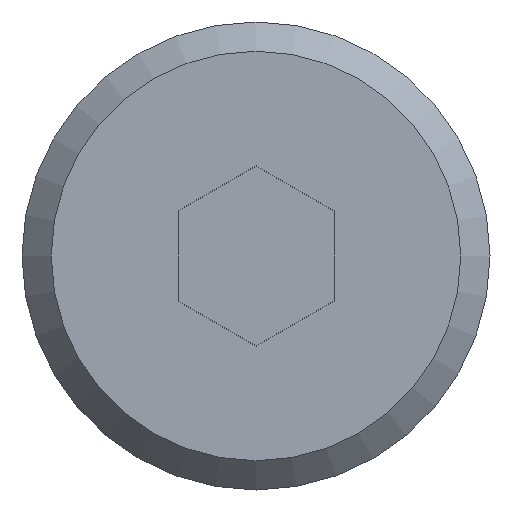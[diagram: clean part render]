
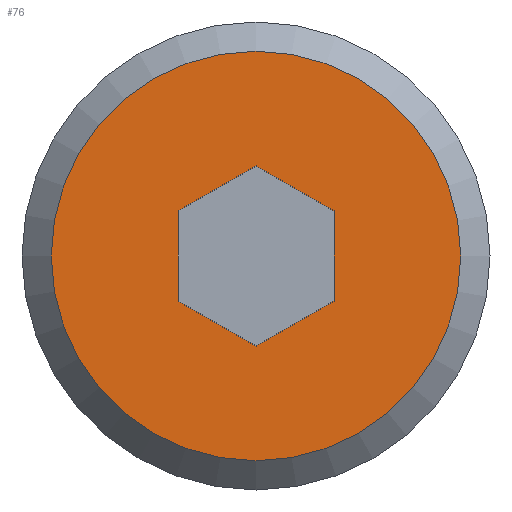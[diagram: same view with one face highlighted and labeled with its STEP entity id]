
A CAD part, front view. The second image highlights one B-rep face of the part: STEP entity #76.
In plain terms, the highlighted planar face has unit normal (0, -1, 0).
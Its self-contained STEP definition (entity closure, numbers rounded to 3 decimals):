
#76 = ADVANCED_FACE( '', ( #94, #95 ), #96, .F. );
#94 = FACE_OUTER_BOUND( '', #132, .T. );
#95 = FACE_BOUND( '', #133, .T. );
#96 = PLANE( '', #134 );
#132 = EDGE_LOOP( '', ( #172 ) );
#133 = EDGE_LOOP( '', ( #173, #174, #175, #176, #177, #178 ) );
#134 = AXIS2_PLACEMENT_3D( '', #179, #180, #181 );
#172 = ORIENTED_EDGE( '', *, *, #264, .F. );
#173 = ORIENTED_EDGE( '', *, *, #265, .T. );
#174 = ORIENTED_EDGE( '', *, *, #266, .T. );
#175 = ORIENTED_EDGE( '', *, *, #267, .T. );
#176 = ORIENTED_EDGE( '', *, *, #268, .T. );
#177 = ORIENTED_EDGE( '', *, *, #269, .T. );
#178 = ORIENTED_EDGE( '', *, *, #270, .T. );
#179 = CARTESIAN_POINT( '', ( 0., 0., 0. ) );
#180 = DIRECTION( '', ( 0., 1., 0. ) );
#181 = DIRECTION( '', ( 0., 0., 1. ) );
#264 = EDGE_CURVE( '', #291, #291, #292, .T. );
#265 = EDGE_CURVE( '', #293, #294, #295, .T. );
#266 = EDGE_CURVE( '', #294, #296, #297, .T. );
#267 = EDGE_CURVE( '', #296, #298, #299, .T. );
#268 = EDGE_CURVE( '', #298, #300, #301, .T. );
#269 = EDGE_CURVE( '', #300, #302, #303, .T. );
#270 = EDGE_CURVE( '', #302, #293, #304, .T. );
#291 = VERTEX_POINT( '', #335 );
#292 = CIRCLE( '', #336, 10.5 );
#293 = VERTEX_POINT( '', #337 );
#294 = VERTEX_POINT( '', #338 );
#295 = LINE( '', #339, #340 );
#296 = VERTEX_POINT( '', #341 );
#297 = LINE( '', #342, #343 );
#298 = VERTEX_POINT( '', #344 );
#299 = LINE( '', #345, #346 );
#300 = VERTEX_POINT( '', #347 );
#301 = LINE( '', #348, #349 );
#302 = VERTEX_POINT( '', #350 );
#303 = LINE( '', #351, #352 );
#304 = LINE( '', #353, #354 );
#335 = CARTESIAN_POINT( '', ( 0., 0., 10.5 ) );
#336 = AXIS2_PLACEMENT_3D( '', #398, #399, #400 );
#337 = CARTESIAN_POINT( '', ( -4., 0., -2.309 ) );
#338 = CARTESIAN_POINT( '', ( -4., 0., 2.309 ) );
#339 = CARTESIAN_POINT( '', ( -4., 0., -2.309 ) );
#340 = VECTOR( '', #401, 1000. );
#341 = CARTESIAN_POINT( '', ( 0., 0., 4.619 ) );
#342 = CARTESIAN_POINT( '', ( -4., 0., 2.309 ) );
#343 = VECTOR( '', #402, 1000. );
#344 = CARTESIAN_POINT( '', ( 4., 0., 2.309 ) );
#345 = CARTESIAN_POINT( '', ( 0., 0., 4.619 ) );
#346 = VECTOR( '', #403, 1000. );
#347 = CARTESIAN_POINT( '', ( 4., 0., -2.309 ) );
#348 = CARTESIAN_POINT( '', ( 4., 0., 2.309 ) );
#349 = VECTOR( '', #404, 1000. );
#350 = CARTESIAN_POINT( '', ( 0., 0., -4.619 ) );
#351 = CARTESIAN_POINT( '', ( 4., 0., -2.309 ) );
#352 = VECTOR( '', #405, 1000. );
#353 = CARTESIAN_POINT( '', ( 0., 0., -4.619 ) );
#354 = VECTOR( '', #406, 1000. );
#398 = CARTESIAN_POINT( '', ( 0., 0., 0. ) );
#399 = DIRECTION( '', ( 0., 1., 0. ) );
#400 = DIRECTION( '', ( 0., 0., 1. ) );
#401 = DIRECTION( '', ( 0., 0., 1. ) );
#402 = DIRECTION( '', ( 0.866, 0., 0.5 ) );
#403 = DIRECTION( '', ( 0.866, 0., -0.5 ) );
#404 = DIRECTION( '', ( 0., 0., -1. ) );
#405 = DIRECTION( '', ( -0.866, 0., -0.5 ) );
#406 = DIRECTION( '', ( -0.866, 0., 0.5 ) );
